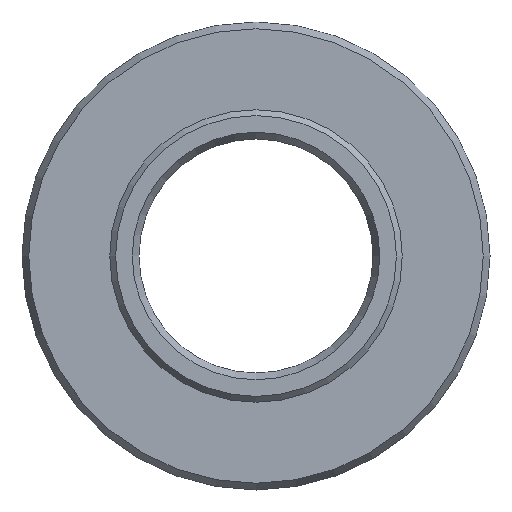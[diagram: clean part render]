
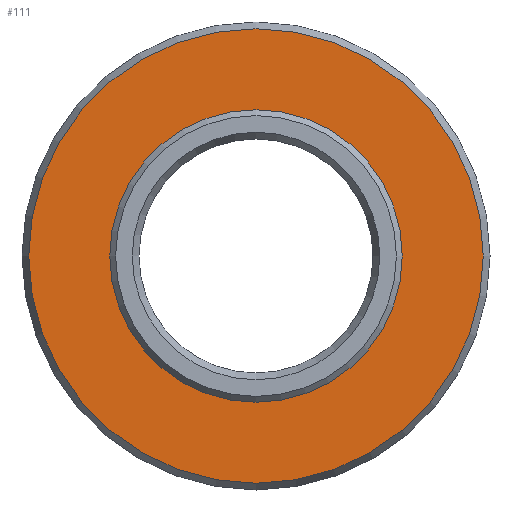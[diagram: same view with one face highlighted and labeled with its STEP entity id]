
A CAD part, left-side view. The second image highlights one B-rep face of the part: STEP entity #111.
In plain terms, the highlighted planar face has unit normal (-1, 0, 0).
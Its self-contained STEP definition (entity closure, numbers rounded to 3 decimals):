
#97=PLANE('',#323);
#111=ADVANCED_FACE('',(#144,#145),#97,.T.);
#144=FACE_BOUND('',#175,.T.);
#145=FACE_BOUND('',#176,.T.);
#175=EDGE_LOOP('',(#214));
#176=EDGE_LOOP('',(#215));
#214=ORIENTED_EDGE('',*,*,#279,.T.);
#215=ORIENTED_EDGE('',*,*,#280,.T.);
#258=VERTEX_POINT('',#461);
#259=VERTEX_POINT('',#463);
#279=EDGE_CURVE('',#258,#258,#298,.T.);
#280=EDGE_CURVE('',#259,#259,#299,.T.);
#298=CIRCLE('',#321,19.423);
#299=CIRCLE('',#322,12.5);
#321=AXIS2_PLACEMENT_3D('',#460,#369,#370);
#322=AXIS2_PLACEMENT_3D('',#462,#371,#372);
#323=AXIS2_PLACEMENT_3D('',#464,#373,#374);
#369=DIRECTION('',(-1.,0.,0.));
#370=DIRECTION('',(0.,0.,1.));
#371=DIRECTION('',(1.,0.,0.));
#372=DIRECTION('',(0.,0.,-1.));
#373=DIRECTION('',(-1.,0.,0.));
#374=DIRECTION('',(0.,0.,1.));
#460=CARTESIAN_POINT('',(0.,0.,0.));
#461=CARTESIAN_POINT('',(0.,0.,19.423));
#462=CARTESIAN_POINT('',(0.,0.,0.));
#463=CARTESIAN_POINT('',(0.,0.,-12.5));
#464=CARTESIAN_POINT('',(0.,20.,0.));
